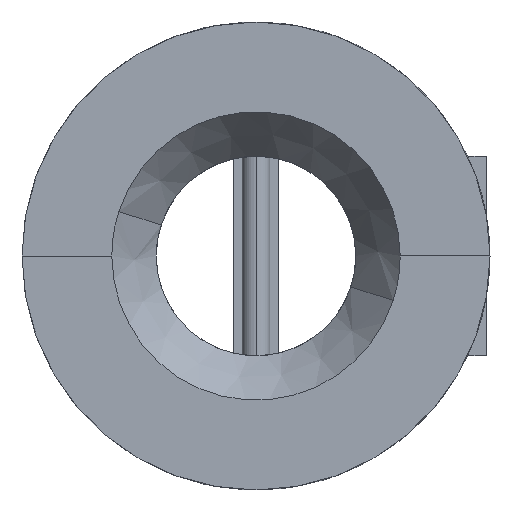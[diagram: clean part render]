
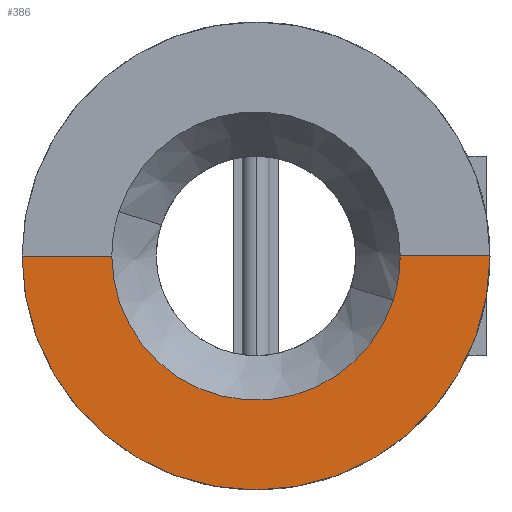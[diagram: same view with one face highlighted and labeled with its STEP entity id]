
A CAD part, left-side view. The second image highlights one B-rep face of the part: STEP entity #386.
In plain terms, the highlighted planar face has unit normal (-1, 0, 0).
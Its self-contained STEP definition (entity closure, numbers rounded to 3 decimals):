
#11 = EDGE_CURVE ( 'NONE', #1400, #486, #737, .T. ) ;
#25 = CARTESIAN_POINT ( 'NONE',  ( -36.5, 41.9, 0. ) ) ;
#36 = CARTESIAN_POINT ( 'NONE',  ( -36.5, -68., 0. ) ) ;
#116 = AXIS2_PLACEMENT_3D ( 'NONE', #1208, #432, #440 ) ;
#212 = DIRECTION ( 'NONE',  ( 0., -1., 0. ) ) ;
#235 = FACE_OUTER_BOUND ( 'NONE', #1628, .T. ) ;
#237 = VERTEX_POINT ( 'NONE', #25 ) ;
#242 = DIRECTION ( 'NONE',  ( 0., -1., 0. ) ) ;
#371 = CARTESIAN_POINT ( 'NONE',  ( -36.5, 0., 0. ) ) ;
#386 = ADVANCED_FACE ( 'NONE', ( #235 ), #1002, .F. ) ;
#419 = DIRECTION ( 'NONE',  ( 1., 0., 0. ) ) ;
#424 = CARTESIAN_POINT ( 'NONE',  ( -36.5, 41.9, 0. ) ) ;
#432 = DIRECTION ( 'NONE',  ( 1., 0., 0. ) ) ;
#437 = LINE ( 'NONE', #424, #1013 ) ;
#440 = DIRECTION ( 'NONE',  ( 0., -1., 0. ) ) ;
#486 = VERTEX_POINT ( 'NONE', #1465 ) ;
#513 = ORIENTED_EDGE ( 'NONE', *, *, #968, .T. ) ;
#668 = EDGE_CURVE ( 'NONE', #871, #885, #1231, .T. ) ;
#724 = EDGE_CURVE ( 'NONE', #1400, #871, #743, .T. ) ;
#737 = CIRCLE ( 'NONE', #933, 68. ) ;
#743 = LINE ( 'NONE', #1477, #862 ) ;
#758 = CARTESIAN_POINT ( 'NONE',  ( -36.5, -41.9, 0. ) ) ;
#796 = CARTESIAN_POINT ( 'NONE',  ( -36.5, 0., 0. ) ) ;
#817 = DIRECTION ( 'NONE',  ( 0., 1., 0. ) ) ;
#843 = DIRECTION ( 'NONE',  ( 0., 1., 0. ) ) ;
#861 = DIRECTION ( 'NONE',  ( 1., 0., 0. ) ) ;
#862 = VECTOR ( 'NONE', #843, 1000. ) ;
#871 = VERTEX_POINT ( 'NONE', #758 ) ;
#885 = VERTEX_POINT ( 'NONE', #1135 ) ;
#933 = AXIS2_PLACEMENT_3D ( 'NONE', #796, #419, #1299 ) ;
#963 = AXIS2_PLACEMENT_3D ( 'NONE', #371, #1515, #242 ) ;
#968 = EDGE_CURVE ( 'NONE', #237, #486, #437, .T. ) ;
#1002 = PLANE ( 'NONE',  #963 ) ;
#1013 = VECTOR ( 'NONE', #817, 1000. ) ;
#1060 = ORIENTED_EDGE ( 'NONE', *, *, #724, .T. ) ;
#1119 = CARTESIAN_POINT ( 'NONE',  ( -36.5, 0., 0. ) ) ;
#1135 = CARTESIAN_POINT ( 'NONE',  ( -36.5, -39.849, -12.948 ) ) ;
#1208 = CARTESIAN_POINT ( 'NONE',  ( -36.5, 0., 0. ) ) ;
#1231 = CIRCLE ( 'NONE', #1341, 41.9 ) ;
#1299 = DIRECTION ( 'NONE',  ( 0., -1., 0. ) ) ;
#1300 = CIRCLE ( 'NONE', #116, 41.9 ) ;
#1341 = AXIS2_PLACEMENT_3D ( 'NONE', #1119, #861, #212 ) ;
#1354 = ORIENTED_EDGE ( 'NONE', *, *, #1492, .T. ) ;
#1399 = ORIENTED_EDGE ( 'NONE', *, *, #11, .F. ) ;
#1400 = VERTEX_POINT ( 'NONE', #36 ) ;
#1465 = CARTESIAN_POINT ( 'NONE',  ( -36.5, 68., 0. ) ) ;
#1477 = CARTESIAN_POINT ( 'NONE',  ( -36.5, -68., 0. ) ) ;
#1492 = EDGE_CURVE ( 'NONE', #885, #237, #1300, .T. ) ;
#1512 = ORIENTED_EDGE ( 'NONE', *, *, #668, .T. ) ;
#1515 = DIRECTION ( 'NONE',  ( 1., 0., 0. ) ) ;
#1628 = EDGE_LOOP ( 'NONE', ( #1399, #1060, #1512, #1354, #513 ) ) ;
